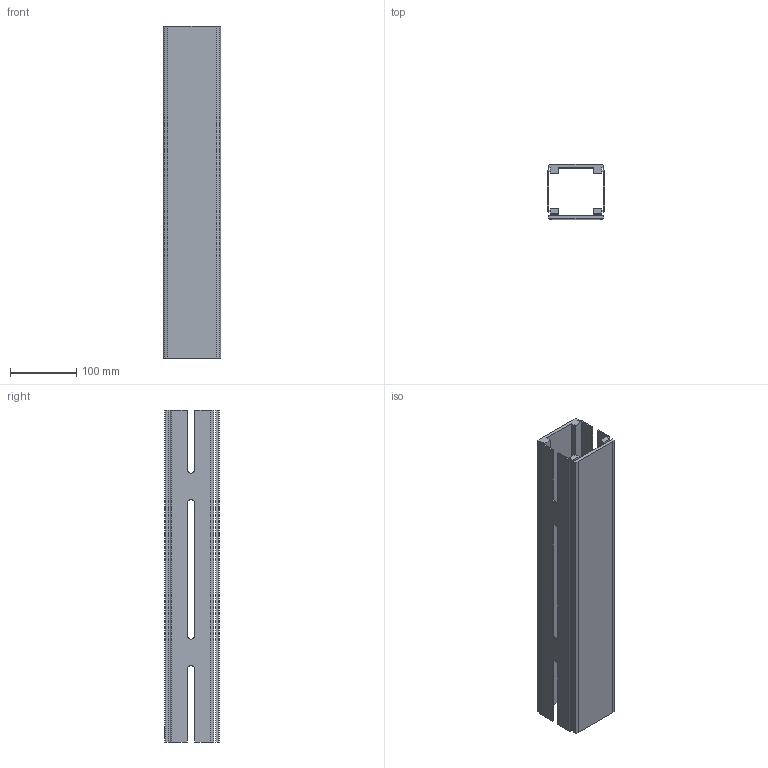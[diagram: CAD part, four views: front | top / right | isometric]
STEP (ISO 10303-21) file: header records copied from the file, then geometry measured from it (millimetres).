
FILE_DESCRIPTION(/* description */ ('RAKBANA SERIE 530'),/* implementation_level */ '2;1');
FILE_NAME(/* name */ '530-1000+830-2000-01.stp',/* time_stamp */ '2022-09-20T13:05:34+02:00',/* author */ ('Mathias.Dore'),/* organization */ ('CARRYLINE'),/* preprocessor_version */ 'ST-DEVELOPER v19.2',/* originating_system */ 'Autodesk Inventor 2023',/* authorisation */ '');
FILE_SCHEMA (('AUTOMOTIVE_DESIGN { 1 0 10303 214 3 1 1 }'));
Length unit declared in the file: millimetre
Products named in the file (1): 530-1000+830-2000-01
Bounding box: 86 x 82 x 500 mm (x, y, z)
Volume: 724008.2 mm3; surface area: 347559.1 mm2
Topology: 2 solids, 2 shells, 111 faces, 306 edges, 204 vertices
Faces by surface type: plane 85, bspline 14, cylinder 12
Entity records: 3665 total; most frequent: CARTESIAN_POINT 816, ORIENTED_EDGE 612, DIRECTION 498, EDGE_CURVE 306, LINE 254, VECTOR 254, VERTEX_POINT 204, AXIS2_PLACEMENT_3D 122
